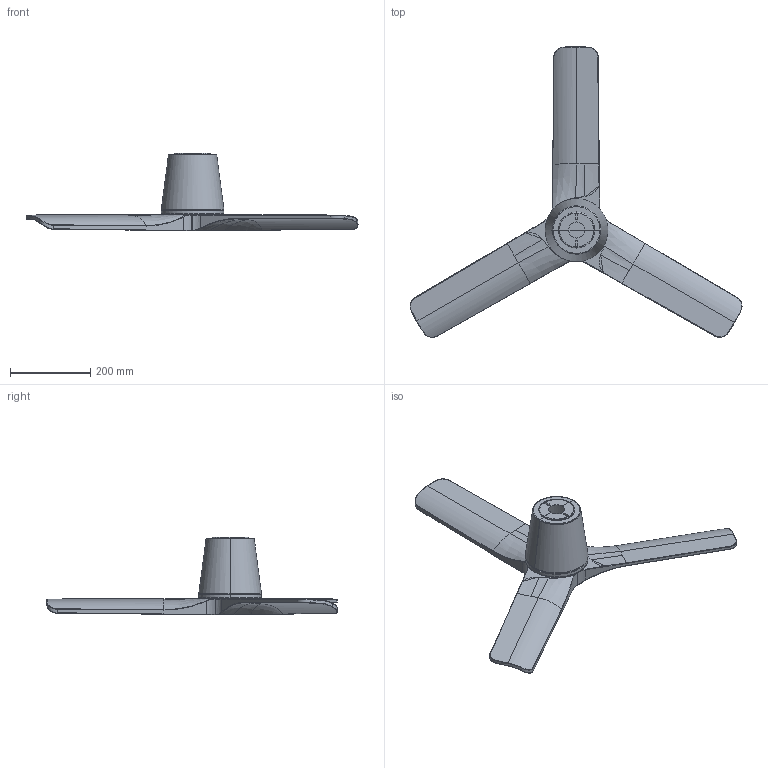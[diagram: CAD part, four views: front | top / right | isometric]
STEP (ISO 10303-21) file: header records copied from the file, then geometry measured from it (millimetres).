
FILE_DESCRIPTION(/* description */ (''),/* implementation_level */ '2;1');
FILE_NAME(/* name */ 'heywood_tub_s_3d',/* time_stamp */ '2026-06-08T13:23:17+02:00',/* author */ (''),/* organization */ (''),/* preprocessor_version */ 'ST-DEVELOPER v19.2',/* originating_system */ 'Rhino 8.30',/* authorisation */ '');
FILE_SCHEMA (('CONFIG_CONTROL_DESIGN'));
Length unit declared in the file: millimetre
Products named in the file (1): Document
Bounding box: 827.04 x 723.99 x 193.5 mm (x, y, z)
Surface area: 596408.6 mm2 (no closed solid volume)
Topology: 0 solids, 4 shells, 266 faces, 643 edges, 379 vertices
Faces by surface type: bspline 118, cylinder 84, plane 64
Entity records: 17664 total; most frequent: CARTESIAN_POINT 12255, ORIENTED_EDGE 1247, EDGE_CURVE 640, B_SPLINE_CURVE_WITH_KNOTS 512, DIRECTION 398, VERTEX_POINT 379, EDGE_LOOP 288, AXIS2_PLACEMENT_3D 273
